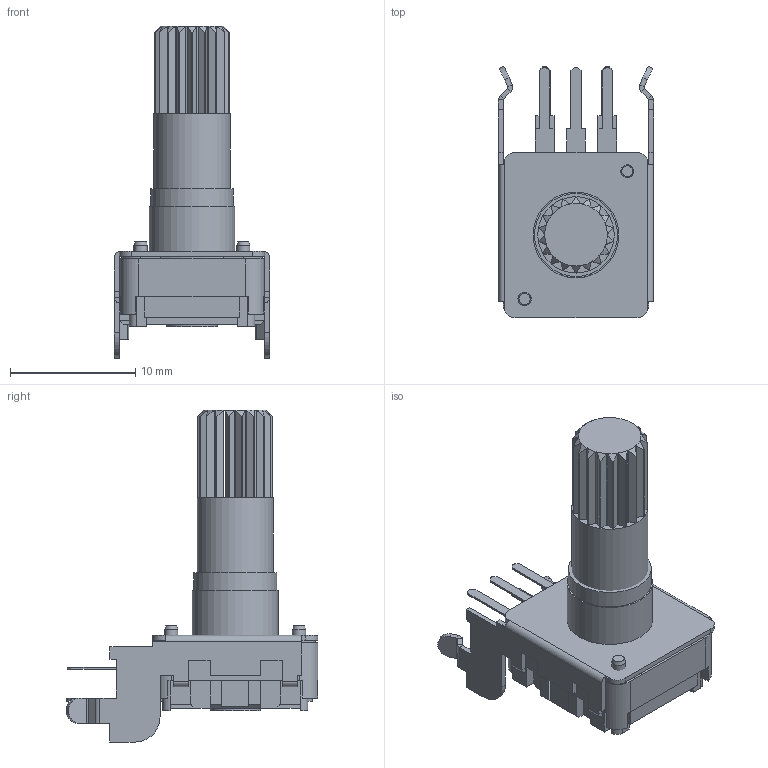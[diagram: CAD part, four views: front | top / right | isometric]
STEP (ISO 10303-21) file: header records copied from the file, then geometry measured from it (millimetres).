
FILE_DESCRIPTION(/* description */ (''),/* implementation_level */ '2;1');
FILE_NAME(/* name */ '\\Forward-ks-ad\開發專區\\X2\9AD896C45EE08A2D8A088AB2\X0\\設計機種開發作業\\X2\91CF75226A5F7A2E5C086848\X0\\ENCODER\機種開發\Encoder\DC12K\3D\CTS\DC12S12102K501.stp',/* time_stamp */ '2020-06-16T14:00:15+08:00',/* author */ ('jia'),/* organization */ (''),/* preprocessor_version */ 'ST-DEVELOPER v15.2',/* originating_system */ 'Autodesk Inventor 2014',/* authorisation */ '');
FILE_SCHEMA (('AUTOMOTIVE_DESIGN { 1 0 10303 214 3 1 1 }'));
Length unit declared in the file: millimetre
Products named in the file (1): 組合1_Shrinkwrap_1
Bounding box: 12.4 x 20.1 x 26.51 mm (x, y, z)
Surface area: 1997.3 mm2 (no closed solid volume)
Topology: 0 solids, 21 shells, 338 faces, 1009 edges, 678 vertices
Faces by surface type: plane 276, cylinder 59, cone 3
Full cylindrical faces by diameter (mm): 1.031 x1, 1.067 x1, 4 x1, 6.1 x1, 6.625 x1, 6.849 x1
Entity records: 11301 total; most frequent: CARTESIAN_POINT 2107, DIRECTION 1812, ORIENTED_EDGE 1714, EDGE_CURVE 999, LINE 784, VECTOR 784, VERTEX_POINT 677, AXIS2_PLACEMENT_3D 514
